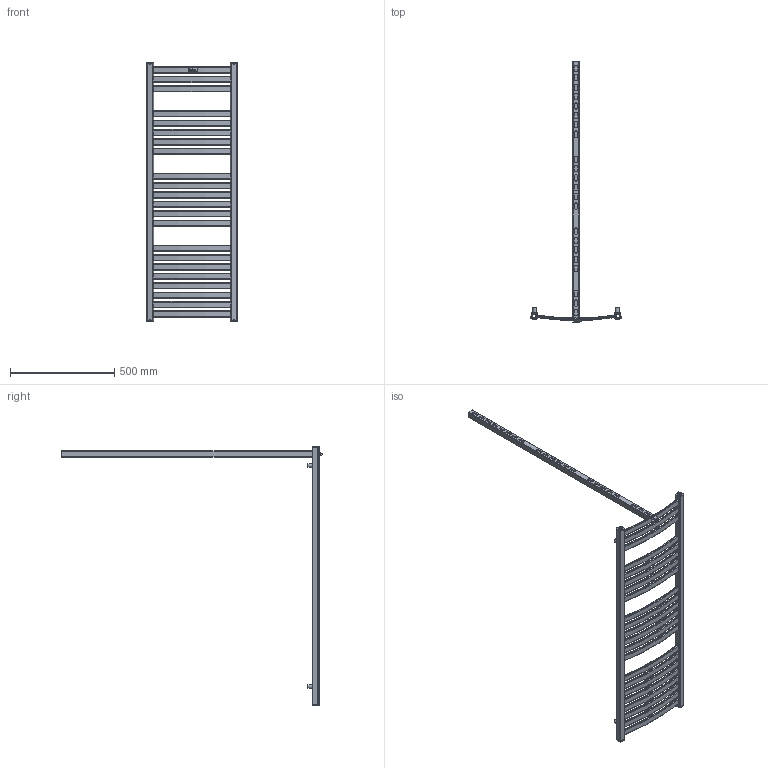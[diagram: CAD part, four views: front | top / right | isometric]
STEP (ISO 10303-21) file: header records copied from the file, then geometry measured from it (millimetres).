
FILE_DESCRIPTION( ( 'Unknown' ), '1' );
FILE_NAME( 'D:/Alplast sp. j/Witryna zespoBu - Projekty/Archiwum/Grzejniki Archiwum/Projekty/STANDARD/AK-EL/AK5-400EL.stp', 'Unknown', ( 'Unknown' ), ( 'Unknown' ), 'PSStep 10.1', 'Unknown', ' ' );
FILE_SCHEMA( ( 'AUTOMOTIVE_DESIGN { 1 0 10303 214 1 1 1 1 }' ) );
Length unit declared in the file: millimetre
Products named in the file (5): Assem1; kana³  poziomy lukowy L-400; zaslepka kwadrat otwor; tulejka kat 12stopni; AK5-EPEL
Bounding box: 433.71 x 1251 x 1240 mm (x, y, z)
Volume: 1522872.1 mm3; surface area: 2042784.3 mm2
Topology: 36 solids, 36 shells, 1136 faces, 3182 edges, 2128 vertices
Faces by surface type: plane 502, cylinder 440, torus 194
Full cylindrical faces by diameter (mm): 16 x5, 18 x5, 18.631 x5, 23 x5
Entity records: 10214 total; most frequent: DIRECTION 1486, CARTESIAN_POINT 1421, ORIENTED_EDGE 1372, EDGE_CURVE 686, AXIS2_PLACEMENT_3D 527, VERTEX_POINT 462, LINE 432, VECTOR 432
